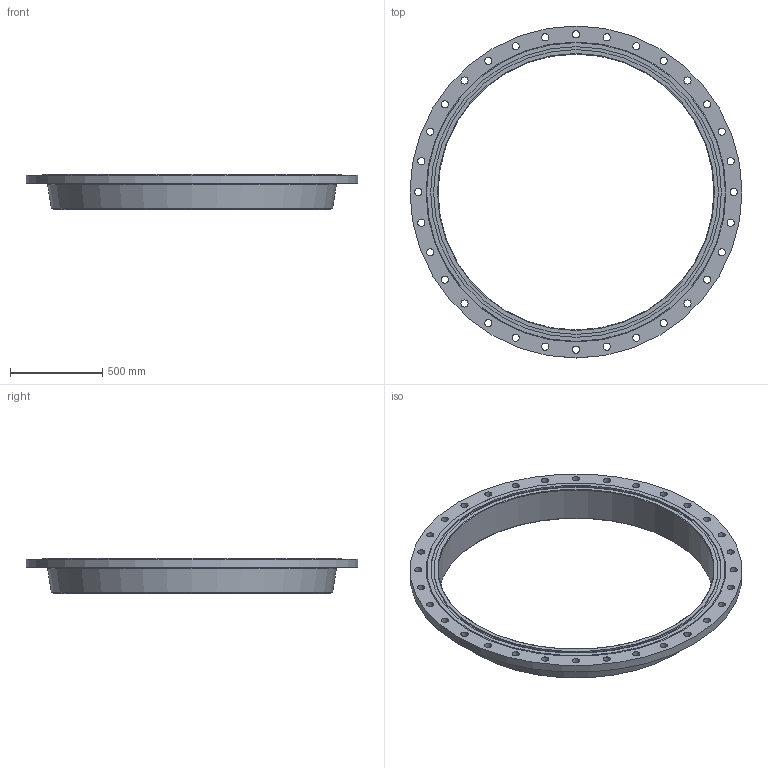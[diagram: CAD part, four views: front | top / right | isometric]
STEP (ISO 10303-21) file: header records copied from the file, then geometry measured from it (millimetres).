
FILE_DESCRIPTION(/* description */ (''),/* implementation_level */ '2;1');
FILE_NAME(/* name */ 'C:\Users\D\Documents\Inventor\HP\JIS\フランジ\水道用フランジF12\GF\ffws_gf_1500_1.stp',/* time_stamp */ '2024-08-28T10:10:30+09:00',/* author */ ('D'),/* organization */ (''),/* preprocessor_version */ 'ST-DEVELOPER v18',/* originating_system */ 'Autodesk Inventor 2020',/* authorisation */ '');
FILE_SCHEMA (('AUTOMOTIVE_DESIGN { 1 0 10303 214 3 1 1 }'));
Length unit declared in the file: millimetre
Products named in the file (1): ffws_rf_80
Bounding box: 1800 x 1800 x 190 mm (x, y, z)
Volume: 50501720.3 mm3; surface area: 3453163.4 mm2
Topology: 1 solids, 1 shells, 47 faces, 164 edges, 123 vertices
Faces by surface type: cylinder 36, plane 6, cone 3, torus 2
Full cylindrical faces by diameter (mm): 39 x32, 1496 x1, 1544 x1, 1576 x1, 1800 x1
Entity records: 2084 total; most frequent: DIRECTION 385, CARTESIAN_POINT 335, ORIENTED_EDGE 328, AXIS2_PLACEMENT_3D 173, EDGE_CURVE 164, CIRCLE 125, VERTEX_POINT 123, EDGE_LOOP 117
